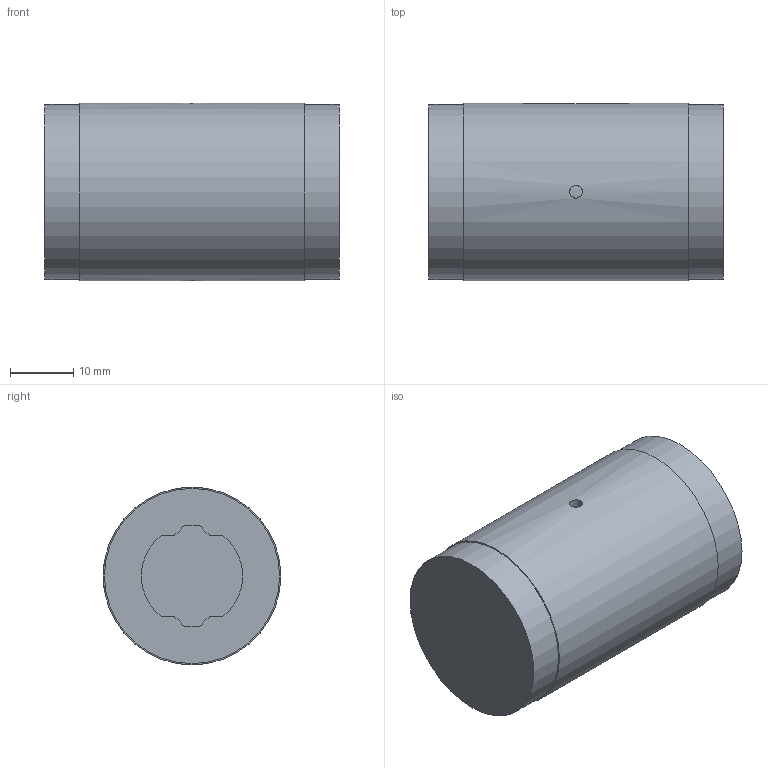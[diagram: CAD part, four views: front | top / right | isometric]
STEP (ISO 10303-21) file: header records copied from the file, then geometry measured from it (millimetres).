
FILE_DESCRIPTION(/* description */ ('STEP AP203'),/* implementation_level */ '2;1');
FILE_NAME(/* name */ 'LT16X+46.4L(00)',/* time_stamp */ '2024-05-28T07:08:01+02:00',/* author */ ('License CC BY-ND 4.0'),/* organization */ ('CADENAS'),/* preprocessor_version */ 'ST-DEVELOPER v19.3',/* originating_system */ 'PARTsolutions',/* authorisation */ ' ');
FILE_SCHEMA (('CONFIG_CONTROL_DESIGN'));
Length unit declared in the file: millimetre
Products named in the file (3): LT16X+46.4L(00); 1LT16X 46.4Shaft; 1LT16X Cylindar
Assembly tree (2 placements, depth 2):
  LT16X+46.4L(00)
    1LT16X 46.4Shaft
    1LT16X Cylindar
Bounding box: 46.4 x 28 x 28 mm (x, y, z)
Volume: 28225.9 mm3; surface area: 10251.3 mm2
Topology: 2 solids, 2 shells, 64 faces, 173 edges, 115 vertices
Faces by surface type: cylinder 39, plane 25
Full cylindrical faces by diameter (mm): 2 x2, 27.6 x2, 28 x1
Entity records: 2129 total; most frequent: CARTESIAN_POINT 399, DIRECTION 366, ORIENTED_EDGE 332, EDGE_CURVE 166, AXIS2_PLACEMENT_3D 139, VERTEX_POINT 114, LINE 88, VECTOR 88
